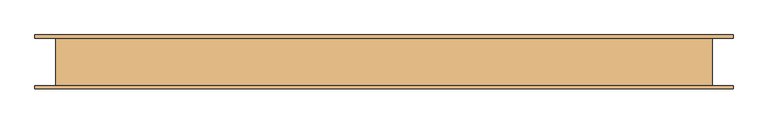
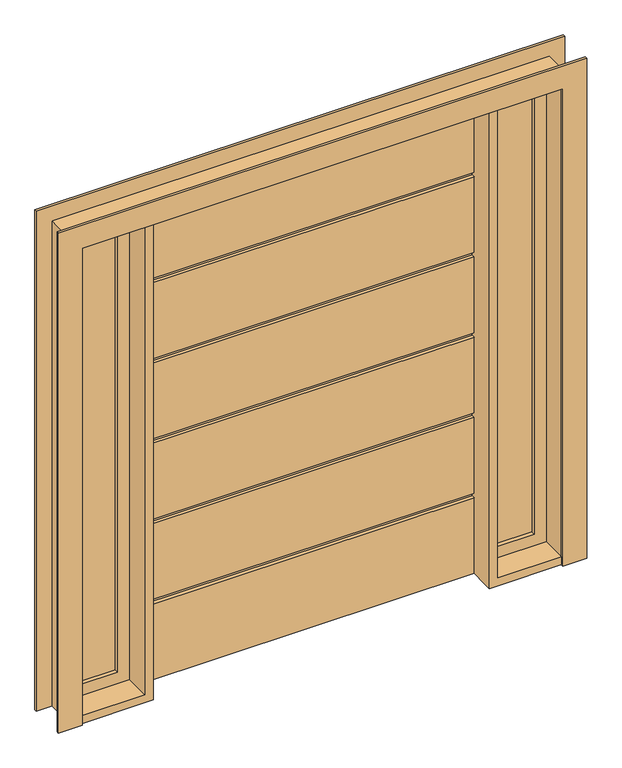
"""IFC4 building model written with IfcOpenShell, lengths in millimetres: door geometry, PORTA PIVOTANTE - 1 FOLHA + LUZES LATERAIS - 2 FOLHAS : (21,5) 150 (21,5) X 210."""

from ifc_helpers import new_model, si_unit, frame, origin, place, context, project, spatial, polyline, outline, extrude, source, transform, mapped, element, save


def door_dd1b2f25(model_context):
    return source(origin(), model_context, "Body", "SweptSolid", [
        extrude(outline(polyline([(975.0, 52.0), (810.0, 52.0), (810.0, 58.0), (975.0, 58.0), (975.0, 52.0)])), frame((0.0, 0.0, 85.0), z_axis=(0.0, 0.0, 1.0), x_axis=(1.0, 0.0, 0.0)), (0.0, 0.0, 1.0), 1965.0),
        extrude(outline(polyline([(2100.0, 1025.0), (2100.0, 760.0), (35.0, 760.0), (35.0, 1025.0), (2100.0, 1025.0)]), holes=[polyline([(2050.0, 975.0), (85.0, 975.0), (85.0, 810.0), (2050.0, 810.0), (2050.0, 975.0)])]), frame((0.0, 35.0, 0.0), z_axis=(0.0, 1.0, 0.0), x_axis=(0.0, 0.0, 1.0)), (0.0, 0.0, 1.0), 40.0),
        extrude(outline(polyline([(-760.0, 52.0), (-925.0, 52.0), (-925.0, 58.0), (-760.0, 58.0), (-760.0, 52.0)])), frame((0.0, 0.0, 85.0), z_axis=(0.0, 0.0, 1.0), x_axis=(1.0, 0.0, 0.0)), (0.0, 0.0, 1.0), 1965.0),
        extrude(outline(polyline([(2100.0, -710.0), (2100.0, -975.0), (35.0, -975.0), (35.0, -710.0), (2100.0, -710.0)]), holes=[polyline([(2050.0, -760.0), (85.0, -760.0), (85.0, -925.0), (2050.0, -925.0), (2050.0, -760.0)])]), frame((0.0, 35.0, 0.0), z_axis=(0.0, 1.0, 0.0), x_axis=(0.0, 0.0, 1.0)), (0.0, 0.0, 1.0), 40.0),
        extrude(outline(polyline([(75.0, 2100.0), (75.0, 1766.6666667), (60.0, 1766.6666667), (60.0, 1746.6666667), (75.0, 1746.6666667), (75.0, 1413.3333333), (60.0, 1413.3333333), (60.0, 1393.3333333), (75.0, 1393.3333333), (75.0, 1060.0), (60.0, 1060.0), (60.0, 1040.0), (75.0, 1040.0), (75.0, 706.6666667), (60.0, 706.6666667), (60.0, 686.6666667), (75.0, 686.6666667), (75.0, 353.3333333), (60.0, 353.3333333), (60.0, 333.3333333), (75.0, 333.3333333), (75.0, 0.0), (35.0, 0.0), (35.0, 333.3333333), (50.0, 333.3333333), (50.0, 353.3333333), (35.0, 353.3333333), (35.0, 686.6666667), (50.0, 686.6666667), (50.0, 706.6666667), (35.0, 706.6666667), (35.0, 1040.0), (50.0, 1040.0), (50.0, 1060.0), (35.0, 1060.0), (35.0, 1393.3333333), (50.0, 1393.3333333), (50.0, 1413.3333333), (35.0, 1413.3333333), (35.0, 1746.6666667), (50.0, 1746.6666667), (50.0, 1766.6666667), (35.0, 1766.6666667), (35.0, 2100.0), (75.0, 2100.0)])), frame((-675.0, 0.0, 0.0), z_axis=(1.0, 0.0, 0.0), x_axis=(0.0, 1.0, 0.0)), (0.0, 0.0, 1.0), 1400.0),
        extrude(outline(polyline([(2100.0, 1025.0), (0.0, 1025.0), (0.0, 1125.0), (2200.0, 1125.0), (2200.0, -1075.0), (0.0, -1075.0), (0.0, -975.0), (2100.0, -975.0), (2100.0, 1025.0)])), frame((0.0, -85.0, 0.0), z_axis=(0.0, 1.0, 0.0), x_axis=(0.0, 0.0, 1.0)), (0.0, 0.0, 1.0), 10.0),
        extrude(outline(polyline([(2100.0, -975.0), (2100.0, 1025.0), (0.0, 1025.0), (0.0, 1125.0), (2200.0, 1125.0), (2200.0, -1075.0), (0.0, -1075.0), (0.0, -975.0), (2100.0, -975.0)])), frame((0.0, 75.0, 0.0), z_axis=(0.0, 1.0, 0.0), x_axis=(0.0, 0.0, 1.0)), (0.0, 0.0, 1.0), 10.0),
        extrude(outline(polyline([(0.0, 1060.0), (2135.0, 1060.0), (2135.0, -1010.0), (0.0, -1010.0), (0.0, -675.0), (2100.0, -675.0), (2100.0, 725.0), (0.0, 725.0), (0.0, 1060.0)]), holes=[polyline([(35.0, -710.0), (35.0, -975.0), (2100.0, -975.0), (2100.0, -710.0), (35.0, -710.0)]), polyline([(2100.0, 760.0), (2100.0, 1025.0), (35.0, 1025.0), (35.0, 760.0), (2100.0, 760.0)])]), frame((0.0, -75.0, 0.0), z_axis=(0.0, 1.0, 0.0), x_axis=(0.0, 0.0, 1.0)), (0.0, 0.0, 1.0), 150.0),
    ])


if __name__ == "__main__":
    model = new_model("IFC4")
    model_context = context("Model", 3, world=origin())
    ifc_project = project(units=[si_unit("LENGTHUNIT", "METRE", prefix="MILLI")], contexts=[model_context])
    site = spatial("IfcSite", under=ifc_project)
    building = spatial("IfcBuilding", under=site)
    placement = place(None, origin())
    door_shape = door_dd1b2f25(model_context)
    element("IfcDoor", 1, ObjectType="PORTA PIVOTANTE - 1 FOLHA + LUZES LATERAIS - 2 FOLHAS : (21,5) 150 (21,5) X 210", at=placement, inside=building, context=model_context, shape_type="MappedRepresentation", body=[
        mapped(door_shape, transform((0.0, 0.0, 0.0), x_axis=(1.0, 0.0, 0.0), y_axis=(0.0, 1.0, 0.0), z_axis=(0.0, 0.0, 1.0))),
    ])
    save(model, "model.ifc")
